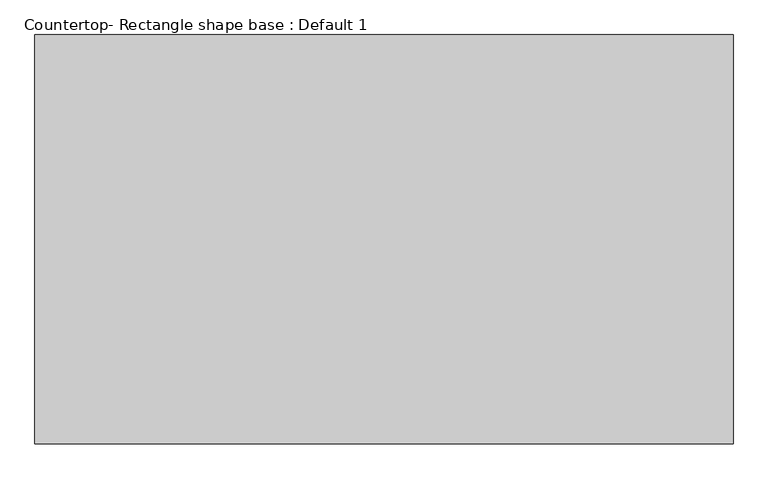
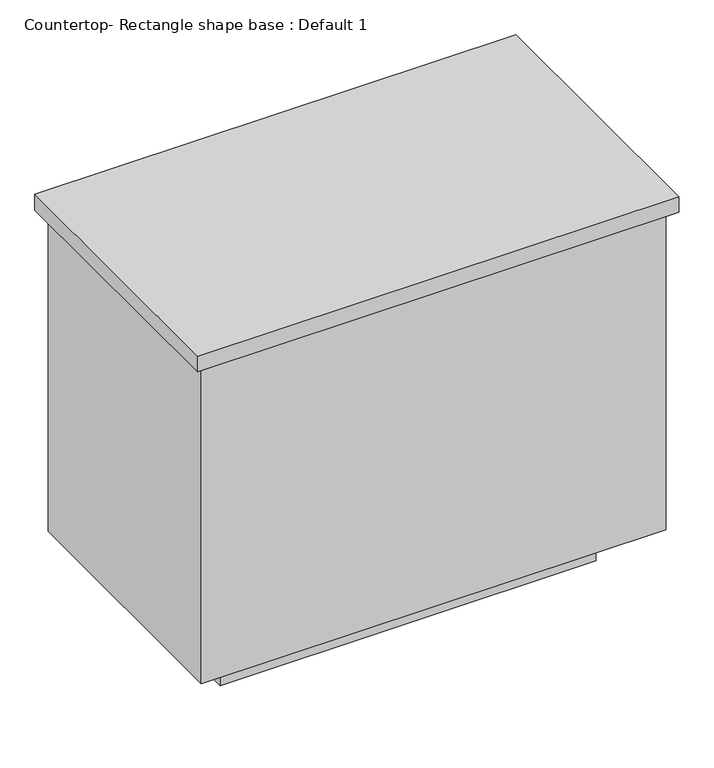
"""IFC4 building model written with IfcOpenShell, lengths in millimetres: proxy geometry, Countertop- Rectangle shape base : Default 1."""

from ifc_helpers import new_model, si_unit, frame, origin, origin_with_axes, place, context, project, spatial, polyline, outline, extrude, source, transform, mapped, element, save


def countertop_rectangle_shape_base_default_1_92f88228(model_context):
    return source(origin(), model_context, "Body", "SweptSolid", [
        extrude(outline(polyline([(209.55, 57.15), (209.55, 704.85), (1314.45, 704.85), (1314.45, 57.15), (209.55, 57.15)])), frame((0.0, 0.0, 876.3), z_axis=(0.0, 0.0, 1.0), x_axis=(1.0, 0.0, 0.0)), (0.0, 0.0, 1.0), 38.1),
        extrude(outline(polyline([(1295.4, 685.8), (1295.4, 76.2), (228.6, 76.2), (228.6, 685.8), (1295.4, 685.8)])), frame((0.0, 0.0, 101.6), z_axis=(0.0, 0.0, 1.0), x_axis=(1.0, 0.0, 0.0)), (0.0, 0.0, 1.0), 774.7),
        extrude(outline(polyline([(1193.8, 584.2), (1193.8, 177.8), (330.2, 177.8), (330.2, 584.2), (1193.8, 584.2)])), origin_with_axes(), (0.0, 0.0, 1.0), 101.6),
    ])


if __name__ == "__main__":
    model = new_model("IFC4")
    model_context = context("Model", 3, world=origin())
    ifc_project = project(units=[si_unit("LENGTHUNIT", "METRE", prefix="MILLI")], contexts=[model_context])
    site = spatial("IfcSite", under=ifc_project)
    building = spatial("IfcBuilding", under=site)
    placement = place(None, origin())
    countertop_rectangle_shape_base_default_1_shape = countertop_rectangle_shape_base_default_1_92f88228(model_context)
    element("IfcBuildingElementProxy", 1, Name="Countertop- Rectangle shape base : Default 1", ObjectType="Countertop- Rectangle shape base : Default 1", at=placement, inside=building, context=model_context, shape_type="MappedRepresentation", body=[
        mapped(countertop_rectangle_shape_base_default_1_shape, transform((0.0, 0.0, 0.0), x_axis=(1.0, 0.0, 0.0), y_axis=(0.0, 1.0, 0.0), z_axis=(0.0, 0.0, 1.0))),
    ])
    save(model, "model.ifc")
